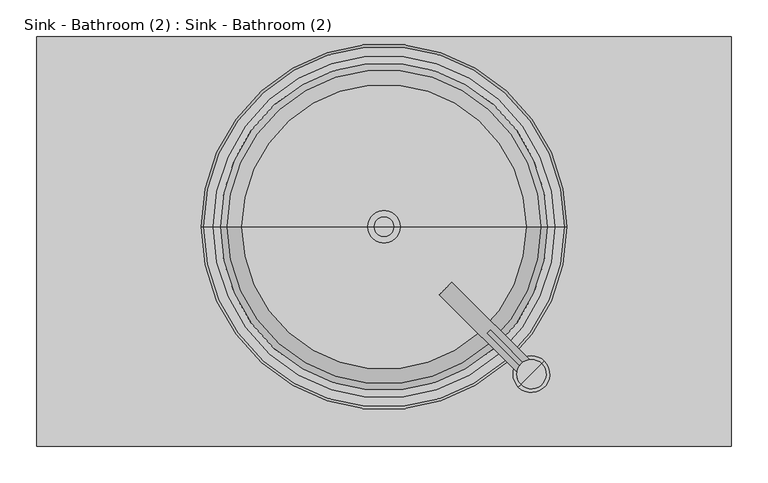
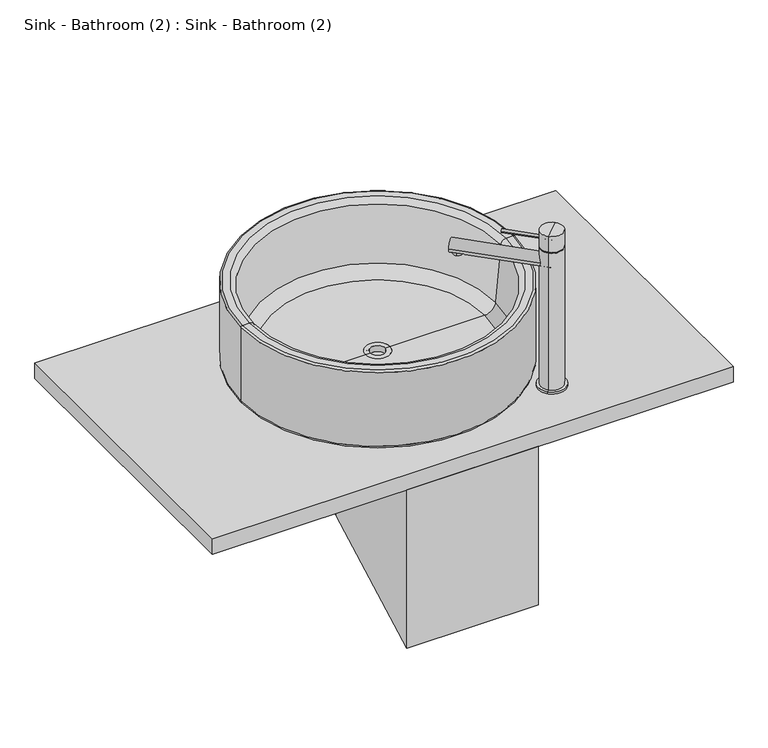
"""IFC4 building model written with IfcOpenShell, lengths in millimetres: flow terminal geometry, Sink - Bathroom (2) : Sink - Bathroom (2)."""

from ifc_helpers import new_model, si_unit, point, frame, frame_2d, origin, place, context, project, spatial, polyline, circle_curve, ellipse_curve, trimmed, segment, composite_curve, outline, extrude, source, transform, mapped, element, save
from ifc_brep_helpers import plane_surface, cylinder_surface, revolved_surface, advanced_brep


def sink_bathroom_2_sink_bathroom_2_ad220687(model_context):
    return source(origin(), model_context, "Body", "SolidModel", [
        advanced_brep(
        [(117.6871066, 224.1333228, 240.6419785), (115.8425701, 222.2887863, 233.1719709), (102.5610803, 209.0072965, 233.1719709), (100.7165438, 207.16276, 240.6419785), (217.8900178, 89.989286, 240.6419785), (234.8605806, 106.9598487, 240.6419785), (120.2387498, 191.329627, 233.1719709), (133.5202396, 204.6111168, 233.1719709)],
        [
            (0, 1, circle_curve(frame((109.2018252, 215.6480414, 240.6419785), z_axis=(-0.707106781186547, 0.707106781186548, 0.0), x_axis=(0.7071067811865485, 0.7071067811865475, 0.0)), 12.0)),
            (1, 2),
            (2, 3, circle_curve(frame((109.2018252, 215.6480414, 240.6419785), z_axis=(-0.707106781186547, 0.707106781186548, 0.0), x_axis=(0.7071067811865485, 0.7071067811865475, 0.0)), 12.0)),
            (3, 0, circle_curve(frame((109.2018252, 215.6480414, 240.6419785), z_axis=(-0.707106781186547, 0.707106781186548, 0.0), x_axis=(0.7071067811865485, 0.7071067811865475, 0.0)), 12.0)),
            (4, 5, circle_curve(frame((226.3752992, 98.4745674, 240.6419785), z_axis=(0.707106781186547, -0.707106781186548, 0.0), x_axis=(0.7071067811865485, 0.7071067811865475, 0.0)), 12.0)),
            (5, 4, circle_curve(frame((226.3752992, 98.4745674, 240.6419785), z_axis=(0.707106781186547, -0.707106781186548, 0.0), x_axis=(0.7071067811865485, 0.7071067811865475, 0.0)), 12.0)),
            (4, 3),
            (2, 6),
            (6, 7, circle_curve(frame((126.8794947, 197.9703719, 240.6419785), z_axis=(0.707106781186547, -0.707106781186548, 0.0), x_axis=(0.7071067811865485, 0.7071067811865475, 0.0)), 12.0)),
            (7, 1),
            (0, 5),
            (7, 6),
        ],
        [
            plane_surface(frame((117.6871066, 224.1333228, 240.6419785), z_axis=(-0.707106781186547, 0.707106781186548, 0.0), x_axis=(0.0, 0.0, 1.0))),
            plane_surface(frame((234.8605806, 106.9598487, 240.6419785), z_axis=(0.707106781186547, -0.707106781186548, 0.0), x_axis=(0.0, 0.0, -1.0))),
            cylinder_surface(frame((226.3752992, 98.4745674, 240.6419785), z_axis=(-0.7071067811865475, 0.7071067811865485, 0.0), x_axis=(0.7071067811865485, 0.7071067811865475, 0.0)), 12.0),
            plane_surface(frame((98.3017966, 204.7480128, 233.1719709), z_axis=(0.0, 0.0, -1.0), x_axis=(0.707106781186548, 0.707106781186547, 0.0))),
            plane_surface(frame((115.9794661, 187.0703433, 233.1719709), z_axis=(-0.707106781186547, 0.707106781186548, 0.0), x_axis=(0.707106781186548, 0.707106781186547, 0.0))),
        ],
        [
            (0, [[1, 2, 3, 4]]),
            (1, [[5, 6]]),
            (2, [[7, -3, 8, 9, 10, -1, 11, -5]]),
            (2, [[-7, -6, -11, -4]]),
            (3, [[-8, -2, -10, 12]]),
            (4, [[-9, -12]]),
        ],
    ),
        extrude(outline(composite_curve([segment(trimmed(circle_curve(frame_2d((0.0, 3.0)), 3.0), [point((0.0, 6.0))], [point((0.0, 0.0))], False, "CARTESIAN"), True, "CONTINUOUS"), segment(trimmed(circle_curve(frame_2d((0.0, 3.0)), 3.0), [point((0.0, 0.0))], [point((0.0, 6.0))], False, "CARTESIAN"), True, "CONTINUOUS")], self_intersect=False)), frame((228.4966196, 100.5958877, 283.2676852), z_axis=(-0.707106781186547, 0.707106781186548, 0.0), x_axis=(0.0, 0.0, -1.0)), (0.0, 0.0, 1.0), 82.0430665),
        advanced_brep(
        [(226.3752992, 98.4745674, 0.0), (244.0529687, 116.1522369, 0.0), (208.6976297, 80.7968978, 0.0), (240.5174348, 112.616703, 300.0), (226.3752992, 98.4745674, 300.0), (212.2331636, 84.3324317, 300.0), (212.2331636, 84.3324317, 270.0), (240.5174348, 112.616703, 270.0), (213.6473772, 85.7466453, 270.0), (239.1032213, 111.2024894, 270.0), (213.6473772, 85.7466453, 268.0), (239.1032213, 111.2024894, 268.0), (212.2331636, 84.3324317, 268.0), (240.5174348, 112.616703, 268.0), (212.2331636, 84.3324317, 4.0), (240.5174348, 112.616703, 4.0), (208.6976297, 80.7968978, 4.0), (244.0529687, 116.1522369, 4.0)],
        [
            (0, 1),
            (1, 2, circle_curve(frame((226.3752992, 98.4745674, 0.0), z_axis=(0.0, 0.0, -1.0), x_axis=(-0.7071067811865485, -0.7071067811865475, 0.0)), 25.0)),
            (2, 0),
            (2, 1, circle_curve(frame((226.3752992, 98.4745674, 0.0), z_axis=(0.0, 0.0, -1.0), x_axis=(-0.7071067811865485, -0.7071067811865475, 0.0)), 25.0)),
            (3, 4),
            (4, 5),
            (5, 3, circle_curve(frame((226.3752992, 98.4745674, 300.0), z_axis=(0.0, 0.0, 1.0), x_axis=(-0.7071067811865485, -0.7071067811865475, 0.0)), 20.0)),
            (3, 5, circle_curve(frame((226.3752992, 98.4745674, 300.0), z_axis=(0.0, 0.0, 1.0), x_axis=(-0.7071067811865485, -0.7071067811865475, 0.0)), 20.0)),
            (5, 6),
            (6, 7, circle_curve(frame((226.3752992, 98.4745674, 270.0), z_axis=(0.0, 0.0, 1.0), x_axis=(-0.7071067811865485, -0.7071067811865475, 0.0)), 20.0)),
            (7, 3),
            (7, 6, circle_curve(frame((226.3752992, 98.4745674, 270.0), z_axis=(0.0, 0.0, 1.0), x_axis=(-0.7071067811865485, -0.7071067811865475, 0.0)), 20.0)),
            (6, 8),
            (8, 9, circle_curve(frame((226.3752992, 98.4745674, 270.0), z_axis=(0.0, 0.0, 1.0), x_axis=(-0.7071067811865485, -0.7071067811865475, 0.0)), 18.0)),
            (9, 7),
            (9, 8, circle_curve(frame((226.3752992, 98.4745674, 270.0), z_axis=(0.0, 0.0, 1.0), x_axis=(-0.7071067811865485, -0.7071067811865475, 0.0)), 18.0)),
            (8, 10),
            (10, 11, circle_curve(frame((226.3752992, 98.4745674, 268.0), z_axis=(0.0, 0.0, 1.0), x_axis=(-0.7071067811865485, -0.7071067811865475, 0.0)), 18.0)),
            (11, 9),
            (11, 10, circle_curve(frame((226.3752992, 98.4745674, 268.0), z_axis=(0.0, 0.0, 1.0), x_axis=(-0.7071067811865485, -0.7071067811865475, 0.0)), 18.0)),
            (10, 12),
            (12, 13, circle_curve(frame((226.3752992, 98.4745674, 268.0), z_axis=(0.0, 0.0, 1.0), x_axis=(-0.7071067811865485, -0.7071067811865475, 0.0)), 20.0)),
            (13, 11),
            (13, 12, circle_curve(frame((226.3752992, 98.4745674, 268.0), z_axis=(0.0, 0.0, 1.0), x_axis=(-0.7071067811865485, -0.7071067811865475, 0.0)), 20.0)),
            (12, 14),
            (14, 15, circle_curve(frame((226.3752992, 98.4745674, 4.0), z_axis=(0.0, 0.0, 1.0), x_axis=(-0.7071067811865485, -0.7071067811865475, 0.0)), 20.0)),
            (15, 13),
            (15, 14, circle_curve(frame((226.3752992, 98.4745674, 4.0), z_axis=(0.0, 0.0, 1.0), x_axis=(-0.7071067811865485, -0.7071067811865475, 0.0)), 20.0)),
            (14, 16),
            (16, 17, circle_curve(frame((226.3752992, 98.4745674, 4.0), z_axis=(0.0, 0.0, 1.0), x_axis=(-0.7071067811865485, -0.7071067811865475, 0.0)), 25.0)),
            (17, 15),
            (17, 16, circle_curve(frame((226.3752992, 98.4745674, 4.0), z_axis=(0.0, 0.0, 1.0), x_axis=(-0.7071067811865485, -0.7071067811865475, 0.0)), 25.0)),
            (1, 17),
            (16, 2),
        ],
        [
            plane_surface(frame((226.3752992, 98.4745674, 0.0), z_axis=(0.0, 0.0, -1.0), x_axis=(-0.707106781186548, -0.707106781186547, 0.0))),
            plane_surface(frame((226.3752992, 98.4745674, 300.0), z_axis=(0.0, 0.0, 1.0), x_axis=(-0.707106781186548, -0.707106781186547, 0.0))),
            cylinder_surface(frame((226.3752992, 98.4745674, -25.0), z_axis=(0.0, 0.0, -1.0), x_axis=(-0.7071067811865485, -0.7071067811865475, 0.0)), 20.0),
            plane_surface(frame((226.3752992, 98.4745674, 270.0), z_axis=(0.0, 0.0, -1.0), x_axis=(-0.707106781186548, -0.707106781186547, 0.0))),
            cylinder_surface(frame((226.3752992, 98.4745674, -25.0), z_axis=(0.0, 0.0, -1.0), x_axis=(-0.7071067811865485, -0.7071067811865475, 0.0)), 18.0),
            plane_surface(frame((226.3752992, 98.4745674, 268.0), z_axis=(0.0, 0.0, 1.0), x_axis=(-0.707106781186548, -0.707106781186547, 0.0))),
            plane_surface(frame((226.3752992, 98.4745674, 4.0), z_axis=(0.0, 0.0, 1.0), x_axis=(-0.707106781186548, -0.707106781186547, 0.0))),
            cylinder_surface(frame((226.3752992, 98.4745674, -25.0), z_axis=(0.0, 0.0, -1.0), x_axis=(-0.7071067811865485, -0.7071067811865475, 0.0)), 25.0),
        ],
        [
            (0, [[1, 2, 3]]),
            (0, [[4, -1, -3]]),
            (1, [[5, 6, 7]]),
            (1, [[-5, 8, -6]]),
            (2, [[9, 10, 11, -7]]),
            (2, [[-11, 12, -9, -8]]),
            (3, [[13, 14, 15, -10]]),
            (3, [[-15, 16, -13, -12]]),
            (4, [[17, 18, 19, -14]]),
            (4, [[-19, 20, -17, -16]]),
            (5, [[21, 22, 23, -18]]),
            (5, [[-23, 24, -21, -20]]),
            (2, [[25, 26, 27, -22]]),
            (2, [[-27, 28, -25, -24]]),
            (6, [[29, 30, 31, -26]]),
            (6, [[-31, 32, -29, -28]]),
            (7, [[33, -30, 34, -2]]),
            (7, [[-34, -32, -33, -4]]),
        ],
    ),
        advanced_brep(
        [(111.5201538, 202.0160043, 233.1719709), (122.8338623, 213.3297128, 233.1719709), (111.5201538, 202.0160043, 227.0717002), (122.8338623, 213.3297128, 227.0717002)],
        [
            (0, 1, circle_curve(frame((117.177008, 207.6728586, 233.1719709), z_axis=(0.0, 0.0, 1.0), x_axis=(0.7071067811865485, 0.7071067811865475, 0.0)), 8.0)),
            (1, 0, circle_curve(frame((117.177008, 207.6728586, 233.1719709), z_axis=(0.0, 0.0, 1.0), x_axis=(0.7071067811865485, 0.7071067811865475, 0.0)), 8.0)),
            (2, 3, circle_curve(frame((117.177008, 207.6728586, 227.0717002), z_axis=(0.0, 0.0, -1.0), x_axis=(0.7071067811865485, 0.7071067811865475, 0.0)), 8.0)),
            (3, 2, circle_curve(frame((117.177008, 207.6728586, 227.0717002), z_axis=(0.0, 0.0, -1.0), x_axis=(0.7071067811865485, 0.7071067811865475, 0.0)), 8.0)),
            (1, 3),
            (2, 0),
        ],
        [
            plane_surface(frame((122.8338623, 213.3297128, 233.1719709), z_axis=(0.0, 0.0, 1.0), x_axis=(0.707106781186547, -0.707106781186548, 0.0))),
            plane_surface(frame((122.8338623, 213.3297128, 227.0717002), z_axis=(0.0, 0.0, -1.0), x_axis=(-0.707106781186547, 0.707106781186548, 0.0))),
            cylinder_surface(frame((117.177008, 207.6728586, 227.0717002), z_axis=(0.0, 0.0, 1.0), x_axis=(0.7071067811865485, 0.7071067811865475, 0.0)), 8.0),
        ],
        [
            (0, [[1, 2]]),
            (1, [[3, 4]]),
            (2, [[5, -3, 6, -2]]),
            (2, [[-6, -4, -5, -1]]),
        ],
    ),
        advanced_brep(
        [(93.9365302, 311.2708876, -30.0), (-44.2367971, 311.2708876, -30.0), (-95.0179319, 0.0, -30.0), (144.717665, 0.0, -30.0), (144.717665, 0.0, -335.8242671), (93.9365302, 311.2708876, -286.6762322), (-95.0179319, 0.0, -335.8242671), (-44.2367971, 311.2708876, -286.6762322)],
        [
            (0, 1, circle_curve(frame((24.8498666, 300.0, -30.0), z_axis=(0.0, 0.0, 1.0), x_axis=(1.0, 0.0, 0.0)), 70.0)),
            (1, 2),
            (2, 3),
            (3, 0),
            (3, 4),
            (4, 5),
            (5, 0),
            (2, 6),
            (6, 4),
            (1, 7),
            (7, 6),
            (5, 7, ellipse_curve(frame((24.8498666, 300.0, -288.4558461), z_axis=(0.0, -0.1559625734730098, 0.9877629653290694), x_axis=(0.0, 0.9877629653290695, 0.1559625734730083)), 70.8672044, 70.0)),
        ],
        [
            plane_surface(frame((154.8498666, -62.10691, -30.0), z_axis=(0.0, 0.0, 1.0), x_axis=(0.16101267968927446, -0.9869523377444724, 0.0))),
            plane_surface(frame((93.9365302, 311.2708876, -30.0), z_axis=(0.9869523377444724, 0.16101267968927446, 0.0), x_axis=(0.0, 0.0, -1.0))),
            plane_surface(frame((144.717665, 0.0, -30.0), z_axis=(0.0, -1.0, 0.0), x_axis=(0.0, 0.0, -1.0))),
            plane_surface(frame((-95.0179319, 0.0, -30.0), z_axis=(-0.9869523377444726, 0.1610126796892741, 0.0), x_axis=(0.0, 0.0, -1.0))),
            cylinder_surface(frame((24.8498666, 300.0, -335.8242671), z_axis=(0.0, 0.0, 1.0), x_axis=(1.0, 0.0, 0.0)), 70.0),
            plane_surface(frame((189.9645656, 0.0, -335.8242671), z_axis=(0.0, 0.1559625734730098, -0.9877629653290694), x_axis=(-1.0, 0.0, 0.0))),
        ],
        [
            (0, [[1, 2, 3, 4]]),
            (1, [[5, 6, 7, -4]]),
            (2, [[8, 9, -5, -3]]),
            (3, [[10, 11, -8, -2]]),
            (4, [[-7, 12, -10, -1]]),
            (5, [[-9, -11, -12, -6]]),
        ],
    ),
        advanced_brep(
        [(38.5877729, 300.0, 15.0), (46.8498666, 300.0, 15.0), (2.8498666, 300.0, 15.0), (11.1119603, 300.0, 15.0), (38.5877729, 300.0, 3.7247134), (11.1119603, 300.0, 3.7247134), (24.8498666, 300.0, 3.7247134), (41.8498666, 300.0, 0.0), (24.8498666, 300.0, 0.0), (7.8498666, 300.0, 0.0), (41.8498666, 300.0, 13.464751), (7.8498666, 300.0, 13.464751), (46.8498666, 300.0, 13.464751), (2.8498666, 300.0, 13.464751)],
        [
            (0, 1),
            (1, 2, circle_curve(frame((24.8498666, 300.0, 15.0), z_axis=(0.0, 0.0, 1.0), x_axis=(-1.0, 0.0, 0.0)), 22.0)),
            (2, 3),
            (3, 0, circle_curve(frame((24.8498666, 300.0, 15.0), z_axis=(0.0, 0.0, -1.0), x_axis=(-1.0, 0.0, 0.0)), 13.7379063)),
            (2, 1, circle_curve(frame((24.8498666, 300.0, 15.0), z_axis=(0.0, 0.0, 1.0), x_axis=(-1.0, 0.0, 0.0)), 22.0)),
            (0, 3, circle_curve(frame((24.8498666, 300.0, 15.0), z_axis=(0.0, 0.0, -1.0), x_axis=(-1.0, 0.0, 0.0)), 13.7379063)),
            (4, 0),
            (3, 5),
            (5, 4, circle_curve(frame((24.8498666, 300.0, 3.7247134), z_axis=(0.0, 0.0, -1.0), x_axis=(-1.0, 0.0, 0.0)), 13.7379063)),
            (4, 5, circle_curve(frame((24.8498666, 300.0, 3.7247134), z_axis=(0.0, 0.0, -1.0), x_axis=(-1.0, 0.0, 0.0)), 13.7379063)),
            (6, 4),
            (5, 6),
            (7, 8),
            (8, 9),
            (9, 7, circle_curve(frame((24.8498666, 300.0, 0.0), z_axis=(0.0, 0.0, -1.0), x_axis=(-1.0, 0.0, 0.0)), 17.0)),
            (7, 9, circle_curve(frame((24.8498666, 300.0, 0.0), z_axis=(0.0, 0.0, -1.0), x_axis=(-1.0, 0.0, 0.0)), 17.0)),
            (10, 7),
            (9, 11),
            (11, 10, circle_curve(frame((24.8498666, 300.0, 13.464751), z_axis=(0.0, 0.0, -1.0), x_axis=(-1.0, 0.0, 0.0)), 17.0)),
            (10, 11, circle_curve(frame((24.8498666, 300.0, 13.464751), z_axis=(0.0, 0.0, -1.0), x_axis=(-1.0, 0.0, 0.0)), 17.0)),
            (12, 10),
            (11, 13),
            (13, 12, circle_curve(frame((24.8498666, 300.0, 13.464751), z_axis=(0.0, 0.0, -1.0), x_axis=(-1.0, 0.0, 0.0)), 22.0)),
            (12, 13, circle_curve(frame((24.8498666, 300.0, 13.464751), z_axis=(0.0, 0.0, -1.0), x_axis=(-1.0, 0.0, 0.0)), 22.0)),
            (1, 12),
            (13, 2),
        ],
        [
            plane_surface(frame((24.8498666, 300.0, 15.0), z_axis=(0.0, 0.0, 1.0), x_axis=(-1.0, 0.0, 0.0))),
            revolved_surface(polyline([(11.111960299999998, 300.0, 15.000000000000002), (11.111960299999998, 300.0, 3.7247134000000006)]), (24.8498666, 300.0, -6.9916745), (0.0, 0.0, 1.0)),
            plane_surface(frame((24.8498666, 300.0, 3.7247134), z_axis=(0.0, 0.0, 1.0), x_axis=(-1.0, 0.0, 0.0))),
            plane_surface(frame((24.8498666, 300.0, 0.0), z_axis=(0.0, 0.0, -1.0), x_axis=(-1.0, 0.0, 0.0))),
            cylinder_surface(frame((24.8498666, 300.0, -6.9916745), z_axis=(0.0, 0.0, 1.0), x_axis=(-1.0, 0.0, 0.0)), 17.0),
            plane_surface(frame((24.8498666, 300.0, 13.464751), z_axis=(0.0, 0.0, -1.0), x_axis=(-1.0, 0.0, 0.0))),
            cylinder_surface(frame((24.8498666, 300.0, -6.9916745), z_axis=(0.0, 0.0, 1.0), x_axis=(-1.0, 0.0, 0.0)), 22.0),
        ],
        [
            (0, [[1, 2, 3, 4]]),
            (0, [[-3, 5, -1, 6]]),
            (1, [[7, -4, 8, 9]]),
            (1, [[-8, -6, -7, 10]]),
            (2, [[11, -9, 12]]),
            (2, [[-12, -10, -11]]),
            (3, [[13, 14, 15]]),
            (3, [[-14, -13, 16]]),
            (4, [[17, -15, 18, 19]]),
            (4, [[-18, -16, -17, 20]]),
            (5, [[21, -19, 22, 23]]),
            (5, [[-22, -20, -21, 24]]),
            (6, [[25, -23, 26, -2]]),
            (6, [[-26, -24, -25, -5]]),
        ],
    ),
        extrude(outline(polyline([(499.8498666, 0.0), (-450.1501334, 0.0), (-450.1501334, 560.0), (499.8498666, 560.0), (499.8498666, 0.0)])), frame((0.0, 0.0, -30.0), z_axis=(0.0, 0.0, 1.0), x_axis=(1.0, 0.0, 0.0)), (0.0, 0.0, 1.0), 30.0),
        advanced_brep(
        [(274.8498666, 300.0, 5.0), (269.8498666, 300.0, 0.0), (-220.1501334, 300.0, 0.0), (-225.1501334, 300.0, 5.0), (274.8498666, 300.0, 147.0), (-225.1501334, 300.0, 147.0), (271.8498666, 300.0, 150.0), (-222.1501334, 300.0, 150.0), (259.0131783, 300.0, 150.0), (-209.3134452, 300.0, 150.0), (249.0512313, 300.0, 140.8715574), (-199.3514982, 300.0, 140.8715574), (239.6361675, 300.0, 33.2568851), (-189.9364343, 300.0, 33.2568851), (219.7122735, 300.0, 15.0), (-170.0125404, 300.0, 15.0), (46.8498666, 300.0, 15.0), (2.8498666, 300.0, 15.0), (46.8498666, 300.0, 13.464751), (2.8498666, 300.0, 13.464751), (41.8498666, 300.0, 13.464751), (7.8498666, 300.0, 13.464751), (41.8498666, 300.0, 0.0), (7.8498666, 300.0, 0.0)],
        [
            (0, 1, circle_curve(frame((269.8498666, 300.0, 5.0), z_axis=(0.0, 1.0, 0.0), x_axis=(1.0, 0.0, 0.0)), 5.0)),
            (1, 2, circle_curve(frame((24.8498666, 300.0, 0.0), z_axis=(0.0, 0.0, 1.0), x_axis=(-1.0, 0.0, 0.0)), 245.0)),
            (2, 3, circle_curve(frame((-220.1501334, 300.0, 5.0), z_axis=(0.0, 1.0, 0.0), x_axis=(-1.0, 0.0, 0.0)), 5.0)),
            (3, 0, circle_curve(frame((24.8498666, 300.0, 5.0), z_axis=(0.0, 0.0, -1.0), x_axis=(-1.0, 0.0, 0.0)), 250.0)),
            (2, 1, circle_curve(frame((24.8498666, 300.0, 0.0), z_axis=(0.0, 0.0, 1.0), x_axis=(-1.0, 0.0, 0.0)), 245.0)),
            (0, 3, circle_curve(frame((24.8498666, 300.0, 5.0), z_axis=(0.0, 0.0, -1.0), x_axis=(-1.0, 0.0, 0.0)), 250.0)),
            (4, 0),
            (3, 5),
            (5, 4, circle_curve(frame((24.8498666, 300.0, 147.0), z_axis=(0.0, 0.0, -1.0), x_axis=(-1.0, 0.0, 0.0)), 250.0)),
            (4, 5, circle_curve(frame((24.8498666, 300.0, 147.0), z_axis=(0.0, 0.0, -1.0), x_axis=(-1.0, 0.0, 0.0)), 250.0)),
            (6, 4, circle_curve(frame((271.8498666, 300.0, 147.0), z_axis=(0.0, 1.0, 0.0), x_axis=(1.0, 0.0, 0.0)), 3.0)),
            (5, 7, circle_curve(frame((-222.1501334, 300.0, 147.0), z_axis=(0.0, 1.0, 0.0), x_axis=(-1.0, 0.0, 0.0)), 3.0)),
            (7, 6, circle_curve(frame((24.8498666, 300.0, 150.0), z_axis=(0.0, 0.0, -1.0), x_axis=(-1.0, 0.0, 0.0)), 247.0)),
            (6, 7, circle_curve(frame((24.8498666, 300.0, 150.0), z_axis=(0.0, 0.0, -1.0), x_axis=(-1.0, 0.0, 0.0)), 247.0)),
            (8, 6),
            (7, 9),
            (9, 8, circle_curve(frame((24.8498666, 300.0, 150.0), z_axis=(0.0, 0.0, -1.0), x_axis=(-1.0, 0.0, 0.0)), 234.1633117)),
            (8, 9, circle_curve(frame((24.8498666, 300.0, 150.0), z_axis=(0.0, 0.0, -1.0), x_axis=(-1.0, 0.0, 0.0)), 234.1633117)),
            (10, 8, circle_curve(frame((259.0131783, 300.0, 140.0), z_axis=(0.0, 1.0, 0.0), x_axis=(1.0, 0.0, 0.0)), 10.0)),
            (9, 11, circle_curve(frame((-209.3134452, 300.0, 140.0), z_axis=(0.0, 1.0, 0.0), x_axis=(-1.0, 0.0, 0.0)), 10.0)),
            (11, 10, circle_curve(frame((24.8498666, 300.0, 140.8715574), z_axis=(0.0, 0.0, -1.0), x_axis=(-1.0, 0.0, 0.0)), 224.2013648)),
            (10, 11, circle_curve(frame((24.8498666, 300.0, 140.8715574), z_axis=(0.0, 0.0, -1.0), x_axis=(-1.0, 0.0, 0.0)), 224.2013648)),
            (12, 10),
            (11, 13),
            (13, 12, circle_curve(frame((24.8498666, 300.0, 33.2568851), z_axis=(0.0, 0.0, -1.0), x_axis=(-1.0, 0.0, 0.0)), 214.7863009)),
            (12, 13, circle_curve(frame((24.8498666, 300.0, 33.2568851), z_axis=(0.0, 0.0, -1.0), x_axis=(-1.0, 0.0, 0.0)), 214.7863009)),
            (14, 12, circle_curve(frame((219.7122735, 300.0, 35.0), z_axis=(0.0, -1.0, 0.0), x_axis=(1.0, 0.0, 0.0)), 20.0)),
            (13, 15, circle_curve(frame((-170.0125404, 300.0, 35.0), z_axis=(0.0, -1.0, 0.0), x_axis=(-1.0, 0.0, 0.0)), 20.0)),
            (15, 14, circle_curve(frame((24.8498666, 300.0, 15.0), z_axis=(0.0, 0.0, -1.0), x_axis=(-1.0, 0.0, 0.0)), 194.8624069)),
            (14, 15, circle_curve(frame((24.8498666, 300.0, 15.0), z_axis=(0.0, 0.0, -1.0), x_axis=(-1.0, 0.0, 0.0)), 194.8624069)),
            (16, 14),
            (15, 17),
            (17, 16, circle_curve(frame((24.8498666, 300.0, 15.0), z_axis=(0.0, 0.0, -1.0), x_axis=(-1.0, 0.0, 0.0)), 22.0)),
            (16, 17, circle_curve(frame((24.8498666, 300.0, 15.0), z_axis=(0.0, 0.0, -1.0), x_axis=(-1.0, 0.0, 0.0)), 22.0)),
            (18, 16),
            (17, 19),
            (19, 18, circle_curve(frame((24.8498666, 300.0, 13.464751), z_axis=(0.0, 0.0, -1.0), x_axis=(-1.0, 0.0, 0.0)), 22.0)),
            (18, 19, circle_curve(frame((24.8498666, 300.0, 13.464751), z_axis=(0.0, 0.0, -1.0), x_axis=(-1.0, 0.0, 0.0)), 22.0)),
            (20, 18),
            (19, 21),
            (21, 20, circle_curve(frame((24.8498666, 300.0, 13.464751), z_axis=(0.0, 0.0, -1.0), x_axis=(-1.0, 0.0, 0.0)), 17.0)),
            (20, 21, circle_curve(frame((24.8498666, 300.0, 13.464751), z_axis=(0.0, 0.0, -1.0), x_axis=(-1.0, 0.0, 0.0)), 17.0)),
            (22, 20),
            (21, 23),
            (23, 22, circle_curve(frame((24.8498666, 300.0, 0.0), z_axis=(0.0, 0.0, -1.0), x_axis=(-1.0, 0.0, 0.0)), 17.0)),
            (22, 23, circle_curve(frame((24.8498666, 300.0, 0.0), z_axis=(0.0, 0.0, -1.0), x_axis=(-1.0, 0.0, 0.0)), 17.0)),
            (1, 22),
            (23, 2),
        ],
        [
            revolved_surface(trimmed(ellipse_curve(frame((-220.1501334, 300.0, 5.0), z_axis=(0.0, 1.0, 0.0), x_axis=(-1.0, 0.0, 0.0)), 5.0, 5.0), [point((-220.1501334, 300.0, 0.0))], [point((-225.1501334, 300.0, 5.0))], True, "CARTESIAN"), (24.8498666, 300.0, -50.0), (0.0, 0.0, 1.0)),
            cylinder_surface(frame((24.8498666, 300.0, -50.0), z_axis=(0.0, 0.0, 1.0), x_axis=(-1.0, 0.0, 0.0)), 250.0),
            revolved_surface(trimmed(ellipse_curve(frame((-222.1501334, 300.0, 147.0), z_axis=(0.0, 1.0, 0.0), x_axis=(-1.0, 0.0, 0.0)), 3.0, 3.0), [point((-225.1501334, 300.0, 147.0))], [point((-222.1501334, 300.0, 150.0))], True, "CARTESIAN"), (24.8498666, 300.0, -50.0), (0.0, 0.0, 1.0)),
            plane_surface(frame((24.8498666, 300.0, 150.0), z_axis=(0.0, 0.0, 1.0), x_axis=(-1.0, 0.0, 0.0))),
            revolved_surface(trimmed(ellipse_curve(frame((-209.3134452, 300.0, 140.0), z_axis=(0.0, 1.0, 0.0), x_axis=(-1.0, 0.0, 0.0)), 10.0, 10.0), [point((-209.3134452, 300.0, 150.0))], [point((-199.3514982, 300.0, 140.8715574))], True, "CARTESIAN"), (24.8498666, 300.0, -50.0), (0.0, 0.0, 1.0)),
            revolved_surface(polyline([(-199.3514982, 300.0, 140.8715574), (-189.9364343, 300.0, 33.2568851)]), (24.8498666, 300.0, -50.0), (0.0, 0.0, 1.0)),
            revolved_surface(trimmed(ellipse_curve(frame((-170.0125404, 300.0, 35.0), z_axis=(0.0, -1.0, 0.0), x_axis=(-1.0, 0.0, 0.0)), 20.0, 20.0), [point((-189.9364343, 300.0, 33.2568851))], [point((-170.0125404, 300.0, 15.0))], True, "CARTESIAN"), (24.8498666, 300.0, -50.0), (0.0, 0.0, 1.0)),
            plane_surface(frame((24.8498666, 300.0, 15.0), z_axis=(0.0, 0.0, 1.0), x_axis=(-1.0, 0.0, 0.0))),
            revolved_surface(polyline([(2.8498665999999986, 300.0, 15.0), (2.8498665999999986, 300.0, 13.464751)]), (24.8498666, 300.0, -50.0), (0.0, 0.0, 1.0)),
            plane_surface(frame((24.8498666, 300.0, 13.464751), z_axis=(0.0, 0.0, 1.0), x_axis=(-1.0, 0.0, 0.0))),
            revolved_surface(polyline([(7.849866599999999, 300.0, 13.464751), (7.849866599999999, 300.0, 0.0)]), (24.8498666, 300.0, -50.0), (0.0, 0.0, 1.0)),
            plane_surface(frame((24.8498666, 300.0, 0.0), z_axis=(0.0, 0.0, -1.0), x_axis=(-1.0, 0.0, 0.0))),
        ],
        [
            (0, [[1, 2, 3, 4]]),
            (0, [[-3, 5, -1, 6]]),
            (1, [[7, -4, 8, 9]]),
            (1, [[-8, -6, -7, 10]]),
            (2, [[11, -9, 12, 13]]),
            (2, [[-12, -10, -11, 14]]),
            (3, [[15, -13, 16, 17]]),
            (3, [[-16, -14, -15, 18]]),
            (4, [[19, -17, 20, 21]]),
            (4, [[-20, -18, -19, 22]]),
            (5, [[23, -21, 24, 25]]),
            (5, [[-24, -22, -23, 26]]),
            (6, [[27, -25, 28, 29]]),
            (6, [[-28, -26, -27, 30]]),
            (7, [[31, -29, 32, 33]]),
            (7, [[-32, -30, -31, 34]]),
            (8, [[35, -33, 36, 37]]),
            (8, [[-36, -34, -35, 38]]),
            (9, [[39, -37, 40, 41]]),
            (9, [[-40, -38, -39, 42]]),
            (10, [[43, -41, 44, 45]]),
            (10, [[-44, -42, -43, 46]]),
            (11, [[47, -45, 48, -2]]),
            (11, [[-48, -46, -47, -5]]),
        ],
    ),
    ])


if __name__ == "__main__":
    model = new_model("IFC4")
    model_context = context("Model", 3, world=origin())
    ifc_project = project(units=[si_unit("LENGTHUNIT", "METRE", prefix="MILLI")], contexts=[model_context])
    site = spatial("IfcSite", under=ifc_project)
    building = spatial("IfcBuilding", under=site)
    placement = place(None, origin())
    sink_bathroom_2_sink_bathroom_2_shape = sink_bathroom_2_sink_bathroom_2_ad220687(model_context)
    element("IfcFlowTerminal", 1, ObjectType="Sink - Bathroom (2) : Sink - Bathroom (2)", at=placement, inside=building, context=model_context, shape_type="MappedRepresentation", body=[
        mapped(sink_bathroom_2_sink_bathroom_2_shape, transform((0.0, 0.0, 0.0), x_axis=(1.0, 0.0, 0.0), y_axis=(0.0, 1.0, 0.0), z_axis=(0.0, 0.0, 1.0))),
    ])
    save(model, "model.ifc")
